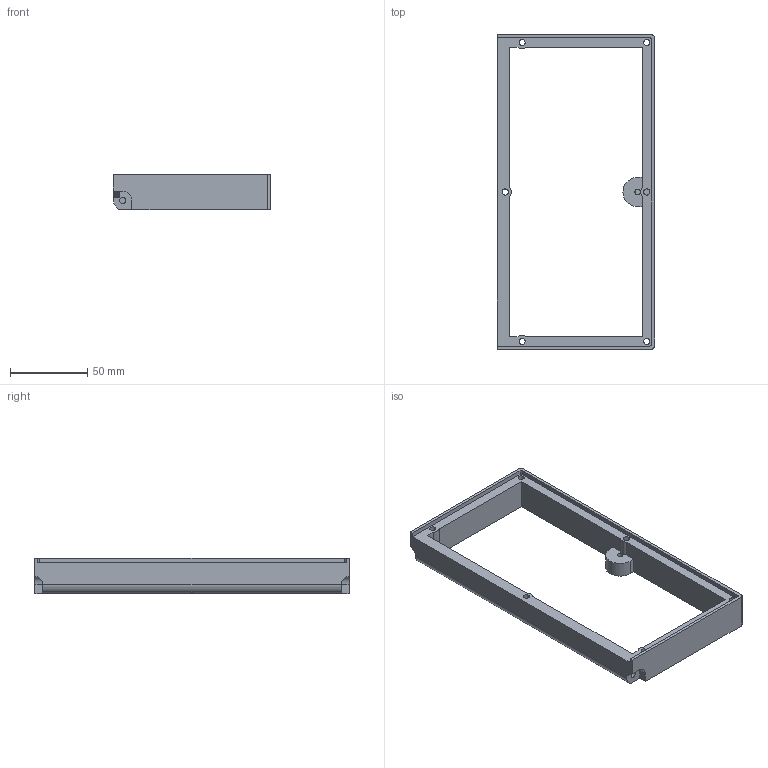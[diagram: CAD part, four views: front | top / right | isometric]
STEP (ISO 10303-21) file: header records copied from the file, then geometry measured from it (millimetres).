
FILE_DESCRIPTION(('FreeCAD Model'),'2;1');
FILE_NAME('Open CASCADE Shape Model','2025-10-28T19:10:24',(''),(''), 'Open CASCADE STEP processor 7.6','FreeCAD','Unknown');
FILE_SCHEMA(('AUTOMOTIVE_DESIGN { 1 0 10303 214 1 1 1 1 }'));
Length unit declared in the file: millimetre
Products named in the file (1): frame
Bounding box: 102 x 204 x 23 mm (x, y, z)
Volume: 92238.3 mm3; surface area: 36831.9 mm2
Topology: 1 solids, 1 shells, 60 faces, 166 edges, 110 vertices
Faces by surface type: plane 37, cylinder 23
Full cylindrical faces by diameter (mm): 3.6 x1, 4 x8
Entity records: 4212 total; most frequent: CARTESIAN_POINT 821, DIRECTION 645, LINE 397, VECTOR 397, ORIENTED_EDGE 332, PCURVE 332, DEFINITIONAL_REPRESENTATION 332, EDGE_CURVE 166
